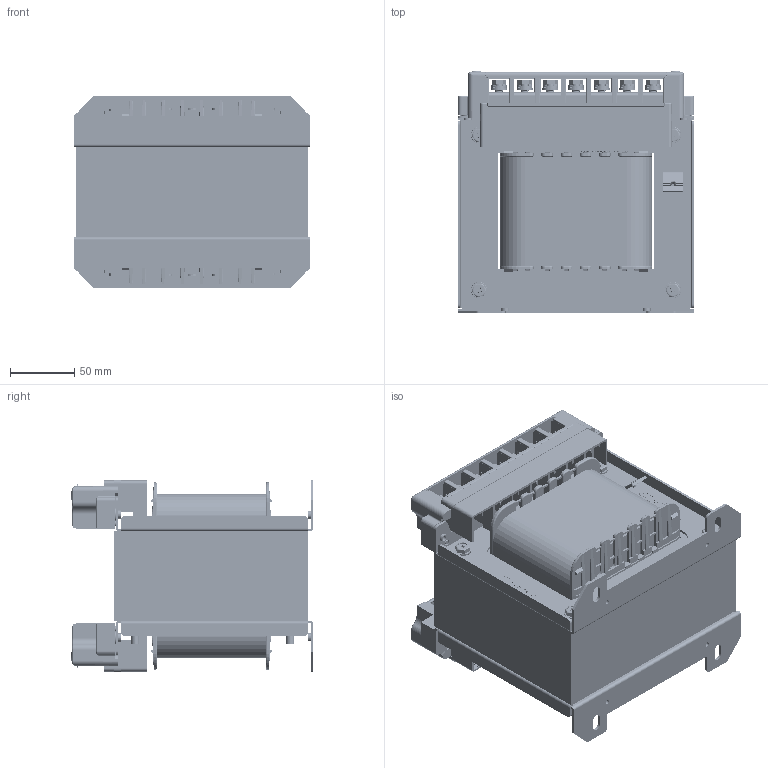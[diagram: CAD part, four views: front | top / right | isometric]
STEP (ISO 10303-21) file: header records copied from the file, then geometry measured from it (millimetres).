
FILE_DESCRIPTION (( 'STEP AP214' ), '1' );
FILE_NAME ('UL TRANS Ass''Y_1P-1KVA_rev.0.STEP', '2018-10-17T00:48:25', ( 'Registered User' ), ( 'Microsoft Corporation' ), 'SwSTEP 2.0', 'SolidWorks 2018', '' );
FILE_SCHEMA (( 'AUTOMOTIVE_DESIGN' ));
Length unit declared in the file: millimetre
Products named in the file (25): 180 TERMINAL COVER; 180 欽濠渠 寰瞪 COVER; TRANS 180 欽濠渠_TERMINAL; UL TRANS 1P 1KVA BARRIER_P00; 180欽濠渠-BODY_REV1; 180 欽濠渠 ASS''Y_REV1; TGI-M0046_R01_遢醴幗 180-A; 152 欽濠渠_PCB ASS''Y; TRANS 1.5KVA EI CORE_P00; TRANS 1.5KVA COIL; TRANS BOBBIN(181.2-70)_P02_P00; M6-STS-FLANGE NUT_P00; WBS)6x90_P00; UL TRANS Ass''Y_1P-1KVA_rev.0; 16mm立瘤窜磊(NEW180窜磊措 利侩 140625_REV_0; LED(赤5); 152 欽濠渠_LED PCB; spring lock washer_ks_KS 1324 - M5; conical spring washer (class 1)_ks_KS 1329 C1 - M5 x 1L; M6x12(HEX); M6(ゎ諦凜); M6(蝶Щ葭諦凜)
Assembly tree (89 placements, depth 4):
  UL TRANS Ass''Y_1P-1KVA_rev.0
    TRANS BOBBIN(181.2-70)_P02_P00
    TRANS 1.5KVA EI CORE_P00
    TGI-M0046_R01_遢醴幗 180-A  x2
    180 欽濠渠 ASS''Y_REV1
      180欽濠渠-BODY_REV1
      TRANS 180 欽濠渠_TERMINAL  x7
      180 欽濠渠 寰瞪 COVER
      180 TERMINAL COVER
      M6x12(HEX)  x7
        M6(蝶Щ葭諦凜)
        M6(ゎ諦凜)
        M6x12(HEX)
      conical spring washer (class 1)_ks_KS 1329 C1 - M5 x 1L  x8
      spring lock washer_ks_KS 1324 - M5  x6
      152 欽濠渠_PCB ASS''Y
        152 欽濠渠_LED PCB
        LED(赤5)
    16mm立瘤窜磊(NEW180窜磊措 利侩 140625_REV_0
    WBS)6x90_P00  x4
    M6-STS-FLANGE NUT_P00  x3
    TRANS 1.5KVA COIL
    180 欽濠渠 ASS''Y_REV1
      180欽濠渠-BODY_REV1
      TRANS 180 欽濠渠_TERMINAL  x7
      180 欽濠渠 寰瞪 COVER
      180 TERMINAL COVER
      M6x12(HEX)  x7
        M6(蝶Щ葭諦凜)
        M6(ゎ諦凜)
        M6x12(HEX)
      conical spring washer (class 1)_ks_KS 1329 C1 - M5 x 1L  x8
      spring lock washer_ks_KS 1324 - M5  x6
      152 欽濠渠_PCB ASS''Y
        152 欽濠渠_LED PCB
    UL TRANS 1P 1KVA BARRIER_P00  x4
Bounding box: 184 x 189.1 x 150 mm (x, y, z)
Volume: 2807231.3 mm3; surface area: 668266.3 mm2
Topology: 110 solids, 110 shells, 10711 faces, 29297 edges, 18918 vertices
Faces by surface type: plane 6599, cylinder 2289, bspline 1170, torus 258, cone 226, sphere 169
Entity records: 162768 total; most frequent: CARTESIAN_POINT 51064, ORIENTED_EDGE 24526, DIRECTION 20466, EDGE_CURVE 12263, LINE 8924, VECTOR 8924, VERTEX_POINT 7906, AXIS2_PLACEMENT_3D 5771
